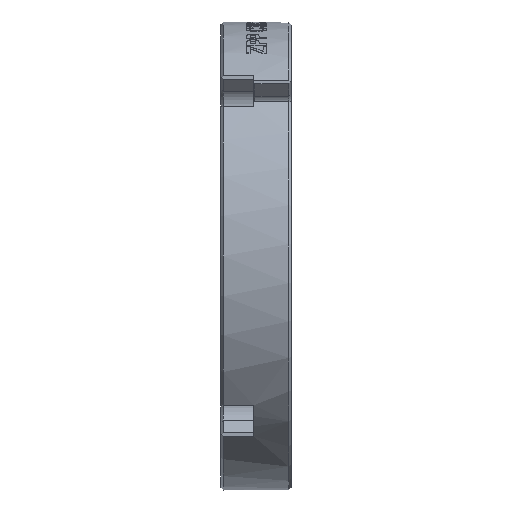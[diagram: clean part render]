
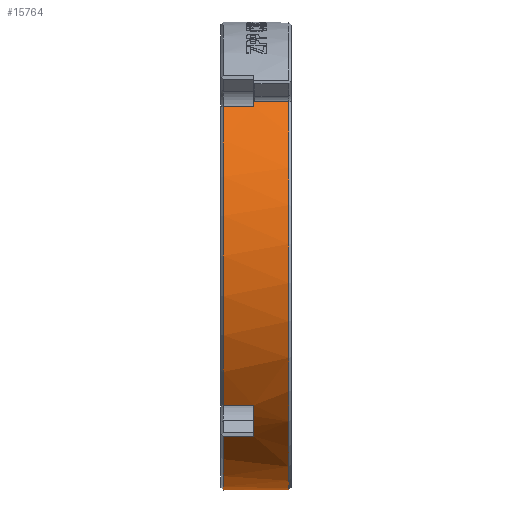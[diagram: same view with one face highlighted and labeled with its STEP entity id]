
A CAD part, left-side view. The second image highlights one B-rep face of the part: STEP entity #15764.
In plain terms, the highlighted cylindrical face has radius 100 mm (diameter 200 mm), a partial arc.
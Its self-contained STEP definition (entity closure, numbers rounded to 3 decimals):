
#5190=CARTESIAN_POINT('',(0.,16.,0.));
#5191=DIRECTION('',(0.,-1.,0.));
#5192=DIRECTION('',(-0.751,0.,0.66));
#5193=AXIS2_PLACEMENT_3D('',#5190,#5191,#5192);
#5218=DIRECTION('',(0.,1.,0.));
#5219=VECTOR('',#5218,15.);
#5220=CARTESIAN_POINT('',(65.992,1.,-75.134));
#5221=LINE('',#5220,#5219);
#5222=DIRECTION('',(0.,-1.,0.));
#5223=VECTOR('',#5222,13.);
#5224=CARTESIAN_POINT('',(63.795,29.,-77.008));
#5225=LINE('',#5224,#5223);
#5226=CARTESIAN_POINT('',(0.,29.,0.));
#5227=DIRECTION('',(0.,1.,0.));
#5228=DIRECTION('',(0.638,0.,-0.77));
#5229=AXIS2_PLACEMENT_3D('',#5226,#5227,#5228);
#5231=DIRECTION('',(0.,-1.,0.));
#5232=VECTOR('',#5231,13.);
#5233=CARTESIAN_POINT('',(-63.795,29.,-77.008));
#5234=LINE('',#5233,#5232);
#5235=CARTESIAN_POINT('',(0.,16.,0.));
#5236=DIRECTION('',(0.,1.,0.));
#5237=DIRECTION('',(-0.638,0.,-0.77));
#5238=AXIS2_PLACEMENT_3D('',#5235,#5236,#5237);
#5240=DIRECTION('',(0.,-1.,0.));
#5241=VECTOR('',#5240,13.);
#5242=CARTESIAN_POINT('',(-77.008,29.,-63.795));
#5243=LINE('',#5242,#5241);
#5244=CARTESIAN_POINT('',(0.,29.,0.));
#5245=DIRECTION('',(0.,1.,0.));
#5246=DIRECTION('',(-0.77,0.,-0.638));
#5247=AXIS2_PLACEMENT_3D('',#5244,#5245,#5246);
#5249=DIRECTION('',(0.,-1.,0.));
#5250=VECTOR('',#5249,13.);
#5251=CARTESIAN_POINT('',(-77.008,29.,63.795));
#5252=LINE('',#5251,#5250);
#5253=DIRECTION('',(0.,-1.,0.));
#5254=VECTOR('',#5253,15.);
#5255=CARTESIAN_POINT('',(-75.134,16.,65.992));
#5256=LINE('',#5255,#5254);
#5274=CARTESIAN_POINT('',(65.992,1.,-75.134));
#5276=CARTESIAN_POINT('',(0.,1.,0.));
#5277=DIRECTION('',(0.,1.,0.));
#5278=DIRECTION('',(0.66,0.,-0.751));
#5279=AXIS2_PLACEMENT_3D('',#5276,#5277,#5278);
#5281=CARTESIAN_POINT('',(-75.134,1.,
65.992));
#6676=CARTESIAN_POINT('',(63.795,29.,-77.008));
#6689=CARTESIAN_POINT('',(-63.795,29.,-77.008));
#6707=CARTESIAN_POINT('',(0.,16.,0.));
#6708=DIRECTION('',(0.,-1.,0.));
#6709=DIRECTION('',(0.638,0.,-0.77));
#6710=AXIS2_PLACEMENT_3D('',#6707,#6708,#6709);
#7202=CARTESIAN_POINT('',(-77.008,29.,-63.795));
#7215=CARTESIAN_POINT('',(-77.008,29.,63.795));
#9024=CARTESIAN_POINT('',(65.992,16.,-75.134));
#9025=VERTEX_POINT('',#9024);
#9036=VERTEX_POINT('',#5274);
#9093=CARTESIAN_POINT('',(-75.134,16.,65.992));
#9094=VERTEX_POINT('',#9093);
#9099=VERTEX_POINT('',#5281);
#9156=VERTEX_POINT('',#6676);
#9157=CARTESIAN_POINT('',(63.795,16.,-77.008));
#9158=VERTEX_POINT('',#9157);
#9165=VERTEX_POINT('',#7202);
#9166=CARTESIAN_POINT('',(-77.008,16.,
-63.795));
#9167=VERTEX_POINT('',#9166);
#9168=VERTEX_POINT('',#6689);
#9174=CARTESIAN_POINT('',(-63.795,16.,
-77.008));
#9175=VERTEX_POINT('',#9174);
#9176=VERTEX_POINT('',#7215);
#9182=CARTESIAN_POINT('',(-77.008,16.,63.795));
#9183=VERTEX_POINT('',#9182);
#15734=CARTESIAN_POINT('',(0.,30.,0.));
#15735=DIRECTION('',(0.,1.,0.));
#15736=DIRECTION('',(0.,0.,-1.));
#15737=AXIS2_PLACEMENT_3D('',#15734,#15735,#15736);
#15738=CYLINDRICAL_SURFACE('',#15737,100.);
#15740=ORIENTED_EDGE('',*,*,#15739,.F.);
#15742=ORIENTED_EDGE('',*,*,#15741,.T.);
#15744=ORIENTED_EDGE('',*,*,#15743,.F.);
#15746=ORIENTED_EDGE('',*,*,#15745,.F.);
#15748=ORIENTED_EDGE('',*,*,#15747,.T.);
#15750=ORIENTED_EDGE('',*,*,#15749,.T.);
#15752=ORIENTED_EDGE('',*,*,#15751,.T.);
#15754=ORIENTED_EDGE('',*,*,#15753,.F.);
#15756=ORIENTED_EDGE('',*,*,#15755,.T.);
#15758=ORIENTED_EDGE('',*,*,#15757,.T.);
#15759=ORIENTED_EDGE('',*,*,#15710,.F.);
#15761=ORIENTED_EDGE('',*,*,#15760,.T.);
#15762=EDGE_LOOP('',(#15740,#15742,#15744,#15746,#15748,#15750,#15752,#15754,
#15756,#15758,#15759,#15761));
#15763=FACE_OUTER_BOUND('',#15762,.F.);
#15764=ADVANCED_FACE('',(#15763),#15738,.T.);
#5194=CIRCLE('',#5193,100.);
#5230=CIRCLE('',#5229,100.);
#5239=CIRCLE('',#5238,100.);
#5248=CIRCLE('',#5247,100.);
#5280=CIRCLE('',#5279,100.);
#6711=CIRCLE('',#6710,100.);
#15710=EDGE_CURVE('',#9094,#9183,#5194,.T.);
#15739=EDGE_CURVE('',#9036,#9099,#5280,.T.);
#15741=EDGE_CURVE('',#9036,#9025,#5221,.T.);
#15743=EDGE_CURVE('',#9158,#9025,#6711,.T.);
#15745=EDGE_CURVE('',#9156,#9158,#5225,.T.);
#15747=EDGE_CURVE('',#9156,#9168,#5230,.T.);
#15749=EDGE_CURVE('',#9168,#9175,#5234,.T.);
#15751=EDGE_CURVE('',#9175,#9167,#5239,.T.);
#15753=EDGE_CURVE('',#9165,#9167,#5243,.T.);
#15755=EDGE_CURVE('',#9165,#9176,#5248,.T.);
#15757=EDGE_CURVE('',#9176,#9183,#5252,.T.);
#15760=EDGE_CURVE('',#9094,#9099,#5256,.T.);
